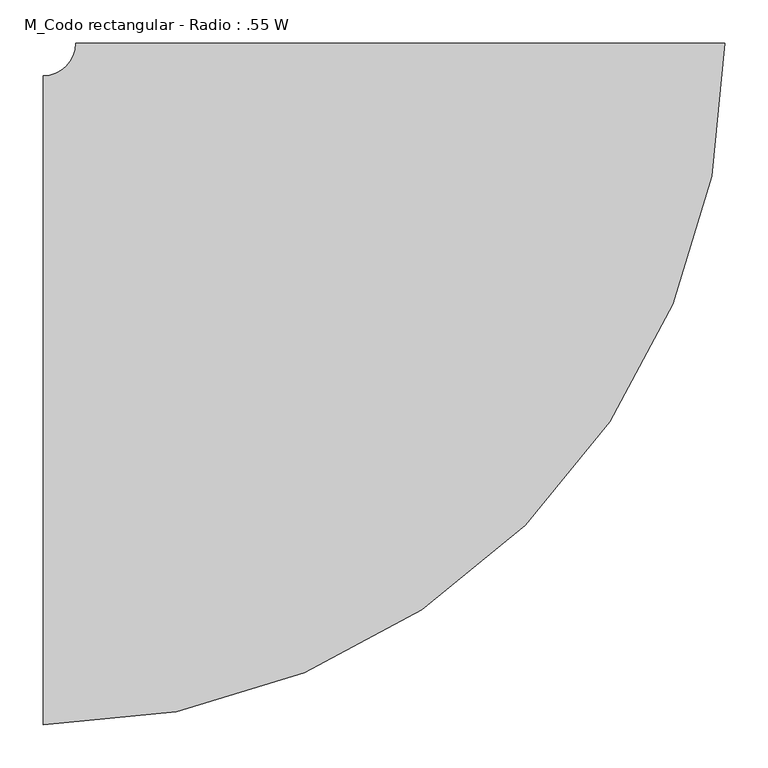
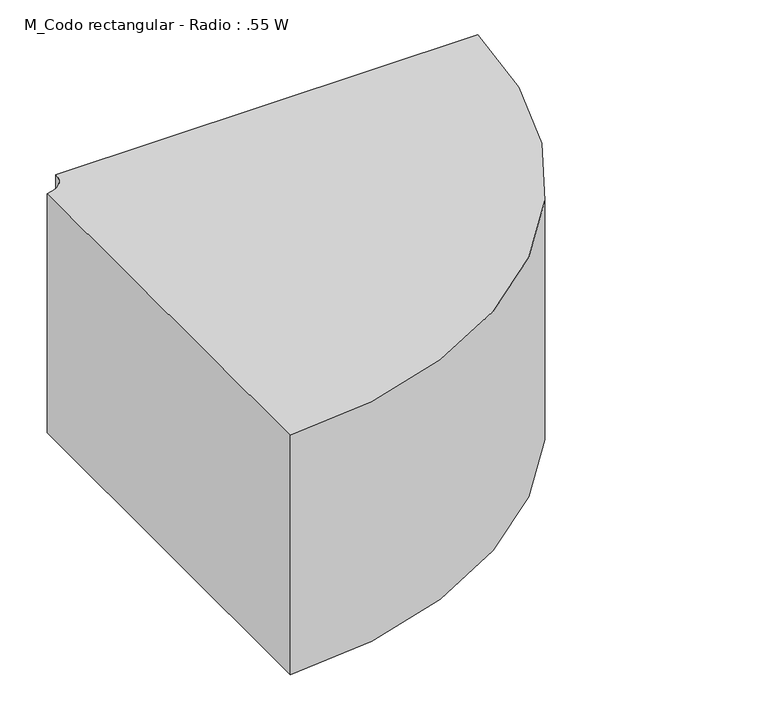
"""IFC4 building model written with IfcOpenShell, lengths in millimetres: duct fitting geometry, M_Codo rectangular - Radio : .55 W."""

from ifc_helpers import new_model, si_unit, point, frame, frame_2d, origin, place, context, project, spatial, polyline, circle_curve, trimmed, segment, composite_curve, outline, extrude, source, transform, mapped, element, save


def m_codo_rectangular_radio_55_w_1f2d654a(model_context):
    return source(origin(), model_context, "Body", "SweptSolid", [
        extrude(outline(composite_curve([segment(trimmed(circle_curve(frame_2d((-412.5, 412.5)), 787.5), [point((375.0, 412.5))], [point((-412.5, -375.0))], False, "CARTESIAN"), True, "CONTINUOUS"), segment(polyline([(-412.5, -375.0), (-412.5, 375.0)]), True, "CONTINUOUS"), segment(trimmed(circle_curve(frame_2d((-412.5, 412.5)), 37.5), [point((-412.5, 375.0))], [point((-375.0, 412.5))], True, "CARTESIAN"), True, "CONTINUOUS"), segment(polyline([(-375.0, 412.5), (375.0, 412.5)]), True, "CONTINUOUS")], self_intersect=False)), frame((0.0, 0.0, -225.0), z_axis=(0.0, 0.0, 1.0), x_axis=(1.0, 0.0, 0.0)), (0.0, 0.0, 1.0), 450.0),
    ])


if __name__ == "__main__":
    model = new_model("IFC4")
    model_context = context("Model", 3, world=origin())
    ifc_project = project(units=[si_unit("LENGTHUNIT", "METRE", prefix="MILLI")], contexts=[model_context])
    site = spatial("IfcSite", under=ifc_project)
    building = spatial("IfcBuilding", under=site)
    placement = place(None, origin())
    m_codo_rectangular_radio_55_w_shape = m_codo_rectangular_radio_55_w_1f2d654a(model_context)
    element("IfcDuctFitting", 1, ObjectType="M_Codo rectangular - Radio : .55 W", at=placement, inside=building, context=model_context, shape_type="MappedRepresentation", body=[
        mapped(m_codo_rectangular_radio_55_w_shape, transform((0.0, 0.0, 0.0), x_axis=(1.0, 0.0, 0.0), y_axis=(0.0, 1.0, 0.0), z_axis=(0.0, 0.0, 1.0))),
    ])
    save(model, "model.ifc")
